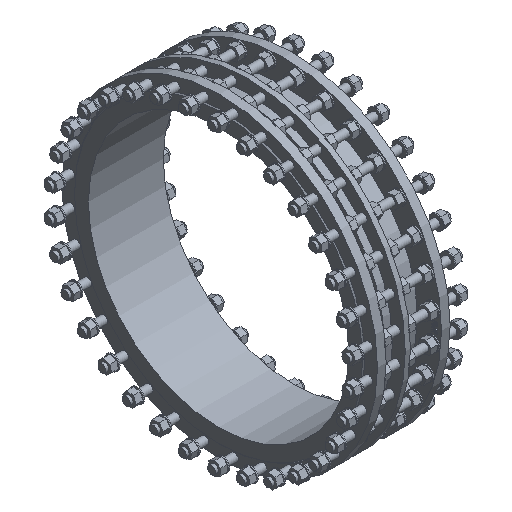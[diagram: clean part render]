
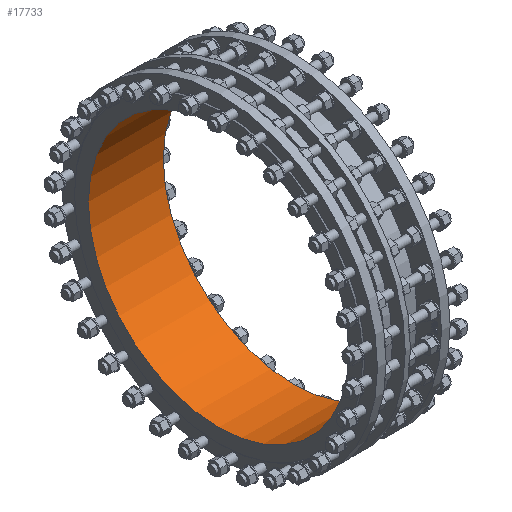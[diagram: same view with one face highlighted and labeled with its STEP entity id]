
A CAD part, isometric view. The second image highlights one B-rep face of the part: STEP entity #17733.
In plain terms, the highlighted cylindrical face has radius 600 mm (diameter 1200 mm), a full revolution.
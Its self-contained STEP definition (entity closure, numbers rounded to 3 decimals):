
#779 = CIRCLE ( 'NONE', #36153, 600. ) ;
#2872 = EDGE_CURVE ( 'NONE', #43903, #43903, #38997, .T. ) ;
#3115 = DIRECTION ( 'NONE',  ( 1., 0., 0. ) ) ;
#10430 = EDGE_CURVE ( 'NONE', #27018, #27018, #779, .T. ) ;
#12254 = CARTESIAN_POINT ( 'NONE',  ( 270., 0., 600. ) ) ;
#13015 = FACE_OUTER_BOUND ( 'NONE', #14478, .T. ) ;
#14478 = EDGE_LOOP ( 'NONE', ( #43626 ) ) ;
#17733 = ADVANCED_FACE ( 'NONE', ( #13015, #27285 ), #28260, .F. ) ;
#18989 = DIRECTION ( 'NONE',  ( 0., 0., 1. ) ) ;
#24675 = AXIS2_PLACEMENT_3D ( 'NONE', #28017, #43023, #38849 ) ;
#24761 = DIRECTION ( 'NONE',  ( 0., 0., -1. ) ) ;
#26122 = DIRECTION ( 'NONE',  ( -1., 0., 0. ) ) ;
#26325 = EDGE_LOOP ( 'NONE', ( #27314 ) ) ;
#27018 = VERTEX_POINT ( 'NONE', #12254 ) ;
#27285 = FACE_OUTER_BOUND ( 'NONE', #26325, .T. ) ;
#27314 = ORIENTED_EDGE ( 'NONE', *, *, #2872, .F. ) ;
#28017 = CARTESIAN_POINT ( 'NONE',  ( 0., 0., 0. ) ) ;
#28260 = CYLINDRICAL_SURFACE ( 'NONE', #24675, 600. ) ;
#34282 = CARTESIAN_POINT ( 'NONE',  ( -75., 0., -600. ) ) ;
#34540 = AXIS2_PLACEMENT_3D ( 'NONE', #35854, #3115, #24761 ) ;
#35854 = CARTESIAN_POINT ( 'NONE',  ( -75., 0., 0. ) ) ;
#36153 = AXIS2_PLACEMENT_3D ( 'NONE', #46009, #26122, #18989 ) ;
#38849 = DIRECTION ( 'NONE',  ( 0., 0., 1. ) ) ;
#38997 = CIRCLE ( 'NONE', #34540, 600. ) ;
#43023 = DIRECTION ( 'NONE',  ( -1., 0., 0. ) ) ;
#43626 = ORIENTED_EDGE ( 'NONE', *, *, #10430, .F. ) ;
#43903 = VERTEX_POINT ( 'NONE', #34282 ) ;
#46009 = CARTESIAN_POINT ( 'NONE',  ( 270., 0., 0. ) ) ;
